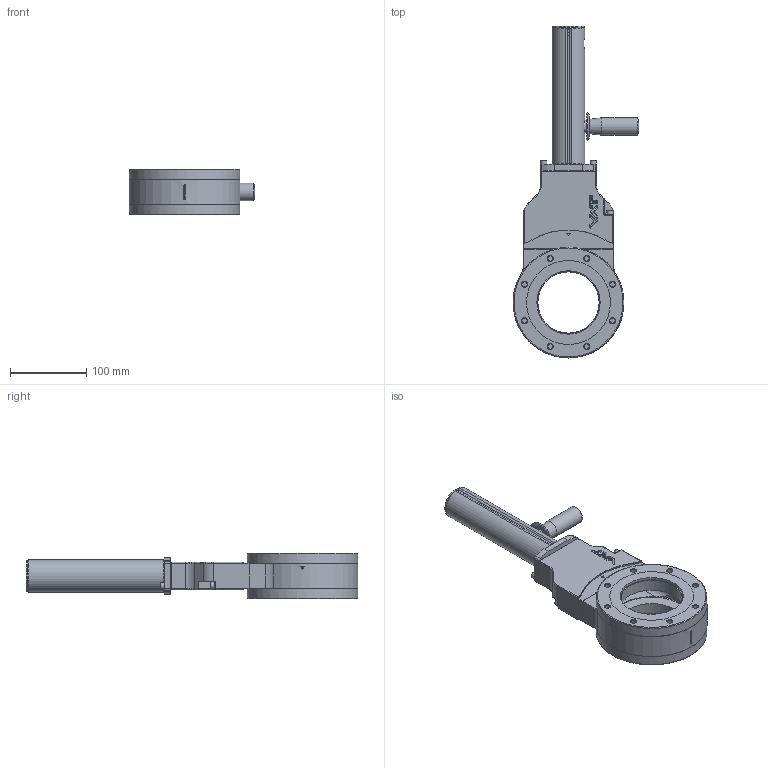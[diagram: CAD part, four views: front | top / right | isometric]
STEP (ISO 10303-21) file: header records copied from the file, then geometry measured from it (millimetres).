
FILE_DESCRIPTION(/* description */ (''),/* implementation_level */ '2;1');
FILE_NAME(/* name */ '1340092480_203.stp',/* time_stamp */ '2013-09-10T17:07:56+02:00',/* author */ (''),/* organization */ (''),/* preprocessor_version */ 'ST-DEVELOPER v11',/* originating_system */ 'SIEMENS PLM Software NX 7.5',/* authorisation */ '');
FILE_SCHEMA (('AP203_CONFIGURATION_CONTROLLED_3D_DESIGN_OF_MECHANICAL_PARTS_AND_ASSEMBLIES_MIM_LF'));
Length unit declared in the file: millimetre
Products named in the file (16): 259747.4; 258827.2; 258826.1; 249686.1; 249618.1; N-6252-038_001.1; 258938.3; 249701.1; 224794.1; 253879.3; n-6134-407; 253882.4; 247750.1; 259748.4; 260535.15_NX-ARRAGMNTCLOSE MB Innenteile+Stange unterdrueckt; 256427.7
Assembly tree (19 placements, depth 4):
  256427.7
    247750.1  x2
    253882.4
    n-6134-407  x2
    253879.3
    260535.15_NX-ARRAGMNTCLOSE MB Innenteile+Stange unterdrueckt
      259748.4
        249686.1  x2
        258826.1
        258827.2
        259747.4
      249701.1
      258938.3
      N-6252-038_001.1
      249618.1
    224794.1  x2
Bounding box: 165.3 x 435.6 x 60 mm (x, y, z)
Volume: 916069 mm3; surface area: 219841.6 mm2
Topology: 17 solids, 17 shells, 1027 faces, 2532 edges, 1625 vertices
Faces by surface type: plane 510, cylinder 304, cone 80, torus 62, extrusion 49, bspline 17, sphere 5
Full cylindrical faces by diameter (mm): 4.2 x5, 5 x8, 5.1 x3, 5.3 x2, 5.5 x2, 6.8 x16, 8.5 x5, 9 x2, 10.2 x1, 11 x1, 14 x2, 14.65 x1, 16 x4, 18.17 x1, 18.216 x1, 23 x1, 28 x1, 28.2 x1, 35 x1, 37 x4, 38.05 x1, 38.125 x1, 42 x1, 80.5 x2, 83.1 x2, 145 x2
Entity records: 34314 total; most frequent: CARTESIAN_POINT 8601, ORIENTED_EDGE 4594, DIRECTION 4502, EDGE_CURVE 2297, AXIS2_PLACEMENT_3D 1711, VERTEX_POINT 1541, EDGE_LOOP 1218, VECTOR 1080
